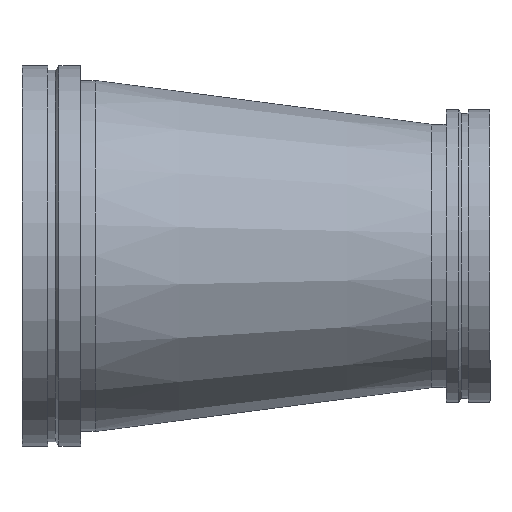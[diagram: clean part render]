
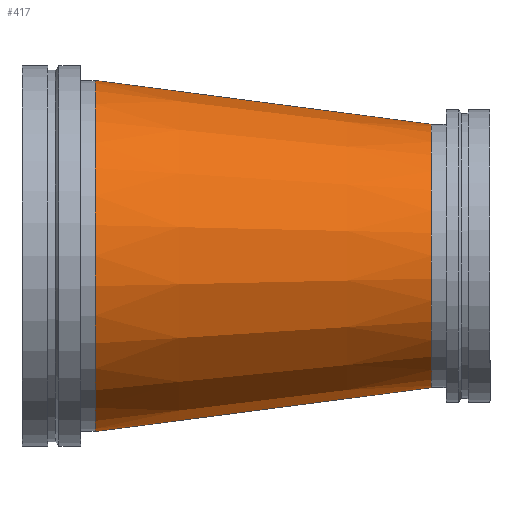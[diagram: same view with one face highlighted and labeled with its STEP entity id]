
A CAD part, top view. The second image highlights one B-rep face of the part: STEP entity #417.
In plain terms, the highlighted conical face has half-angle 7.431 degrees and reference radius 266.7 mm.
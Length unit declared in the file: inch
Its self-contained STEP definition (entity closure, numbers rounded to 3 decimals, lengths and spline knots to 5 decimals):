
#46=CONICAL_SURFACE('',#475,10.5,0.13);
#54=LINE('',#739,#68);
#68=VECTOR('',#587,10.5);
#101=FACE_OUTER_BOUND('',#124,.T.);
#124=EDGE_LOOP('',(#315,#316,#317,#318,#319,#320));
#155=CIRCLE('',#473,12.);
#156=CIRCLE('',#474,12.);
#157=CIRCLE('',#476,9.);
#158=CIRCLE('',#477,9.);
#195=VERTEX_POINT('',#729);
#196=VERTEX_POINT('',#730);
#197=VERTEX_POINT('',#735);
#198=VERTEX_POINT('',#736);
#239=EDGE_CURVE('',#195,#196,#155,.T.);
#240=EDGE_CURVE('',#196,#195,#156,.T.);
#242=EDGE_CURVE('',#197,#198,#157,.T.);
#243=EDGE_CURVE('',#198,#197,#158,.T.);
#244=EDGE_CURVE('',#198,#196,#54,.T.);
#315=ORIENTED_EDGE('',*,*,#242,.F.);
#316=ORIENTED_EDGE('',*,*,#243,.F.);
#317=ORIENTED_EDGE('',*,*,#244,.T.);
#318=ORIENTED_EDGE('',*,*,#240,.T.);
#319=ORIENTED_EDGE('',*,*,#239,.T.);
#320=ORIENTED_EDGE('',*,*,#244,.F.);
#417=ADVANCED_FACE('',(#101),#46,.T.);
#473=AXIS2_PLACEMENT_3D('',#731,#576,#577);
#474=AXIS2_PLACEMENT_3D('',#732,#578,#579);
#475=AXIS2_PLACEMENT_3D('',#734,#581,#582);
#476=AXIS2_PLACEMENT_3D('',#737,#583,#584);
#477=AXIS2_PLACEMENT_3D('',#738,#585,#586);
#576=DIRECTION('center_axis',(1.,0.,0.));
#577=DIRECTION('ref_axis',(0.,0.,-1.));
#578=DIRECTION('center_axis',(1.,0.,0.));
#579=DIRECTION('ref_axis',(0.,0.,-1.));
#581=DIRECTION('center_axis',(-1.,0.,0.));
#582=DIRECTION('ref_axis',(0.,1.,0.));
#583=DIRECTION('center_axis',(1.,0.,0.));
#584=DIRECTION('ref_axis',(0.,0.,-1.));
#585=DIRECTION('center_axis',(1.,0.,0.));
#586=DIRECTION('ref_axis',(0.,0.,-1.));
#587=DIRECTION('',(-0.992,-0.129,0.));
#729=CARTESIAN_POINT('',(5.,12.,0.));
#730=CARTESIAN_POINT('',(5.,-12.,0.));
#731=CARTESIAN_POINT('Origin',(5.,0.,0.));
#732=CARTESIAN_POINT('Origin',(5.,0.,0.));
#734=CARTESIAN_POINT('Origin',(16.5,0.,0.));
#735=CARTESIAN_POINT('',(28.,9.,0.));
#736=CARTESIAN_POINT('',(28.,-9.,0.));
#737=CARTESIAN_POINT('Origin',(28.,0.,0.));
#738=CARTESIAN_POINT('Origin',(28.,0.,0.));
#739=CARTESIAN_POINT('',(16.5,-10.5,0.));
